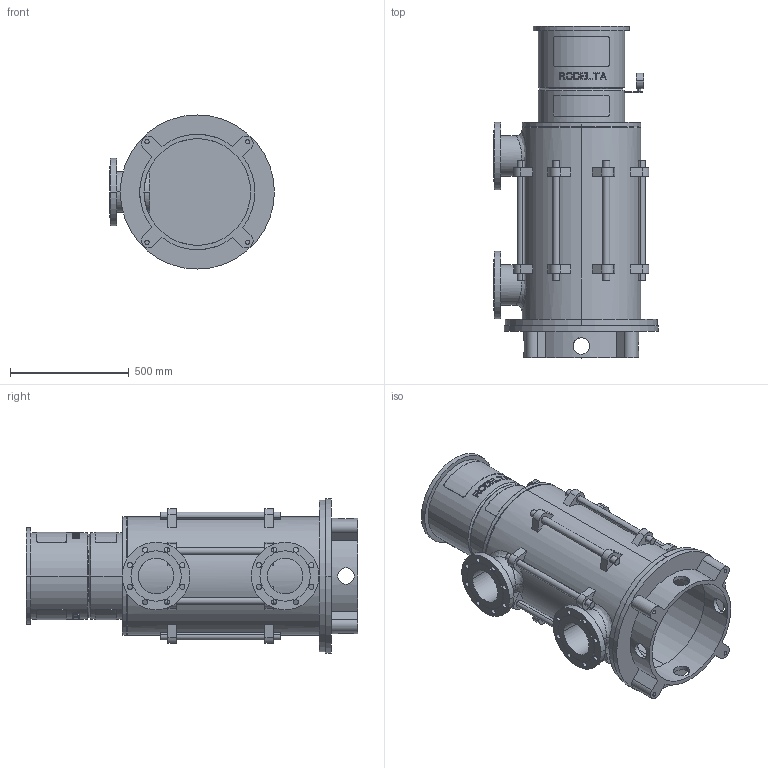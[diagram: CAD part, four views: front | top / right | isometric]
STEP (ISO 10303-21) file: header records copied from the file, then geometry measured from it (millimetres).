
FILE_DESCRIPTION((''),'2;1');
FILE_NAME('LS6_3TR_0GR_TOT_30KW','2023-08-15T',('Lyritlocal'),(''),'PRO/ENGINEER BY PARAMETRIC TECHNOLOGY CORPORATION, 2016360','PRO/ENGINEER BY PARAMETRIC TECHNOLOGY CORPORATION, 2016360','');
FILE_SCHEMA(('CONFIG_CONTROL_DESIGN'));
Length unit declared in the file: millimetre
Products named in the file (1): LS6_3TR_0GR_TOT_30KW
Bounding box: 695 x 1399 x 650 mm (x, y, z)
Volume: 43806544.4 mm3; surface area: 5935224.6 mm2
Topology: 3 solids, 7 shells, 684 faces, 1767 edges, 1174 vertices
Faces by surface type: plane 422, cylinder 242, cone 12, bspline 8
Entity records: 22538 total; most frequent: CARTESIAN_POINT 5926, ORIENTED_EDGE 3518, DIRECTION 3273, EDGE_CURVE 1767, AXIS2_PLACEMENT_3D 1237, VERTEX_POINT 1174, EDGE_LOOP 829, VECTOR 799
